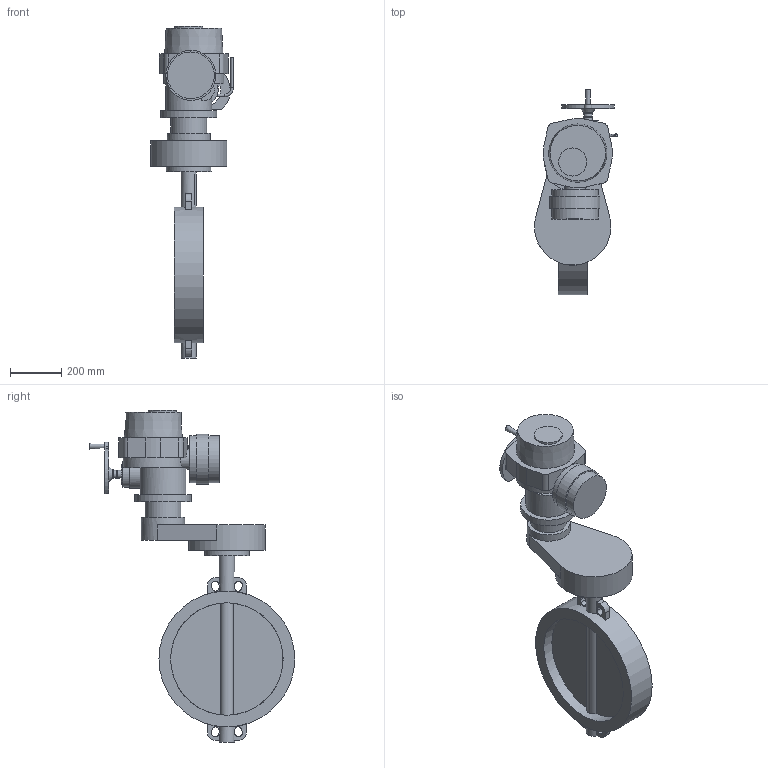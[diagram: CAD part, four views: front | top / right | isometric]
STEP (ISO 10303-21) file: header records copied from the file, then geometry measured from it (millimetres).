
FILE_DESCRIPTION(('STEP AP203'), '1');
FILE_NAME('Çàòâîð 017W.Z(÷óãóí) DN450+ÝÏ QT.A300', '', ('UNSPECIFIED'), ('UNSPECIFIED'), 'ASCON STEP Converter 1.6', 'ASCON Math Kernel', '');
FILE_SCHEMA(('CONFIG_CONTROL_DESIGN'));
Length unit declared in the file: millimetre
Bounding box: 324.45 x 805 x 1300 mm (x, y, z)
Volume: 43066001.6 mm3; surface area: 1832186.8 mm2
Topology: 1 solids, 1 shells, 873 faces, 2429 edges, 1614 vertices
Faces by surface type: cylinder 616, plane 253, cone 3, torus 1
Full cylindrical faces by diameter (mm): 10 x2, 14 x12, 16 x1, 17.5 x4, 18 x4, 32 x2, 35 x1, 60 x2, 80 x2, 100 x1, 110 x1, 140 x1, 170 x1, 175 x1, 180 x1, 183 x2, 196 x1, 220 x1, 300 x1, 440.5 x2, 532 x1
Entity records: 36524 total; most frequent: CARTESIAN_POINT 6013, DIRECTION 5388, ORIENTED_EDGE 4762, EDGE_CURVE 2381, AXIS2_PLACEMENT_3D 2153, VERTEX_POINT 1614, CIRCLE 1279, LINE 1082
